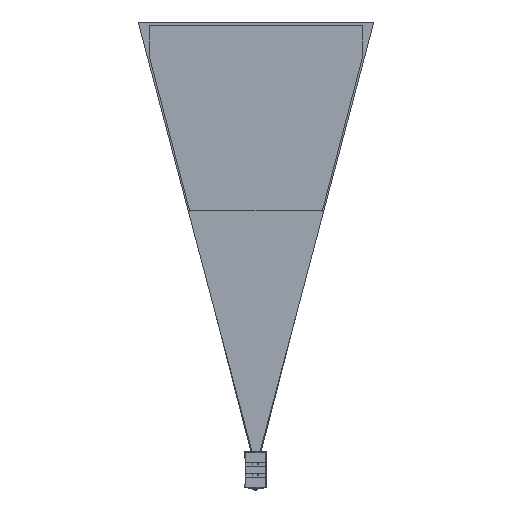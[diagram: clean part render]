
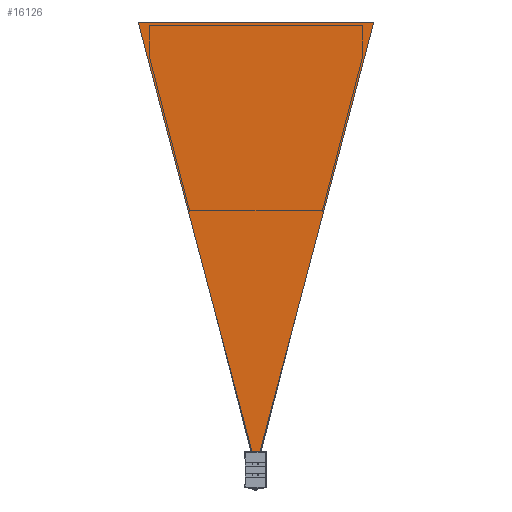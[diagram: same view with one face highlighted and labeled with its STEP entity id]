
A CAD part, left-side view. The second image highlights one B-rep face of the part: STEP entity #16126.
In plain terms, the highlighted planar face has unit normal (-1, 0, 0).
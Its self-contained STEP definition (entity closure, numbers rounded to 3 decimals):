
#5080 = CARTESIAN_POINT ( 'NONE',  ( 28.154, -14.545, -12.467 ) ) ;
#7986 = EDGE_CURVE ( 'NONE', #188790, #231576, #99668, .T. ) ;
#16126 = ADVANCED_FACE ( 'NONE', ( #285747 ), #60146, .T. ) ;
#16699 = ORIENTED_EDGE ( 'NONE', *, *, #70603, .T. ) ;
#27296 = EDGE_CURVE ( 'NONE', #119332, #137919, #92674, .T. ) ;
#39137 = DIRECTION ( 'NONE',  ( 0., -0.256, -0.967 ) ) ;
#46098 = ORIENTED_EDGE ( 'NONE', *, *, #27296, .T. ) ;
#52358 = DIRECTION ( 'NONE',  ( 0., 1., 0. ) ) ;
#55628 = ORIENTED_EDGE ( 'NONE', *, *, #7986, .T. ) ;
#60146 = PLANE ( 'NONE',  #258113 ) ;
#70603 = EDGE_CURVE ( 'NONE', #137919, #188790, #221086, .T. ) ;
#75976 = ORIENTED_EDGE ( 'NONE', *, *, #290001, .T. ) ;
#92674 = LINE ( 'NONE', #249768, #176966 ) ;
#99668 = LINE ( 'NONE', #190308, #243825 ) ;
#119332 = VERTEX_POINT ( 'NONE', #5080 ) ;
#127507 = CARTESIAN_POINT ( 'NONE',  ( 28.154, -34.545, -12.467 ) ) ;
#137919 = VERTEX_POINT ( 'NONE', #211897 ) ;
#160755 = CARTESIAN_POINT ( 'NONE',  ( 28.154, -342.545, 1149.533 ) ) ;
#176966 = VECTOR ( 'NONE', #248242, 1000. ) ;
#177261 = CARTESIAN_POINT ( 'NONE',  ( 28.154, 4.955, -10.467 ) ) ;
#180191 = DIRECTION ( 'NONE',  ( 0., 1., 0. ) ) ;
#181486 = CARTESIAN_POINT ( 'NONE',  ( 28.154, 293.455, 1149.533 ) ) ;
#188790 = VERTEX_POINT ( 'NONE', #160755 ) ;
#190308 = CARTESIAN_POINT ( 'NONE',  ( 28.154, -342.545, 1149.533 ) ) ;
#199395 = VECTOR ( 'NONE', #39137, 1000. ) ;
#211897 = CARTESIAN_POINT ( 'NONE',  ( 28.154, -34.545, -12.467 ) ) ;
#216696 = DIRECTION ( 'NONE',  ( 0., -0.256, 0.967 ) ) ;
#221086 = LINE ( 'NONE', #127507, #235948 ) ;
#224779 = DIRECTION ( 'NONE',  ( -1., 0., 0. ) ) ;
#228186 = CARTESIAN_POINT ( 'NONE',  ( 28.154, 293.455, 1149.533 ) ) ;
#231576 = VERTEX_POINT ( 'NONE', #228186 ) ;
#235948 = VECTOR ( 'NONE', #216696, 1000. ) ;
#236830 = EDGE_LOOP ( 'NONE', ( #46098, #16699, #55628, #75976 ) ) ;
#243825 = VECTOR ( 'NONE', #52358, 1000. ) ;
#248242 = DIRECTION ( 'NONE',  ( 0., -1., 0. ) ) ;
#249768 = CARTESIAN_POINT ( 'NONE',  ( 28.154, -14.545, -12.467 ) ) ;
#258113 = AXIS2_PLACEMENT_3D ( 'NONE', #177261, #224779, #180191 ) ;
#285747 = FACE_OUTER_BOUND ( 'NONE', #236830, .T. ) ;
#290001 = EDGE_CURVE ( 'NONE', #231576, #119332, #291423, .T. ) ;
#291423 = LINE ( 'NONE', #181486, #199395 ) ;
